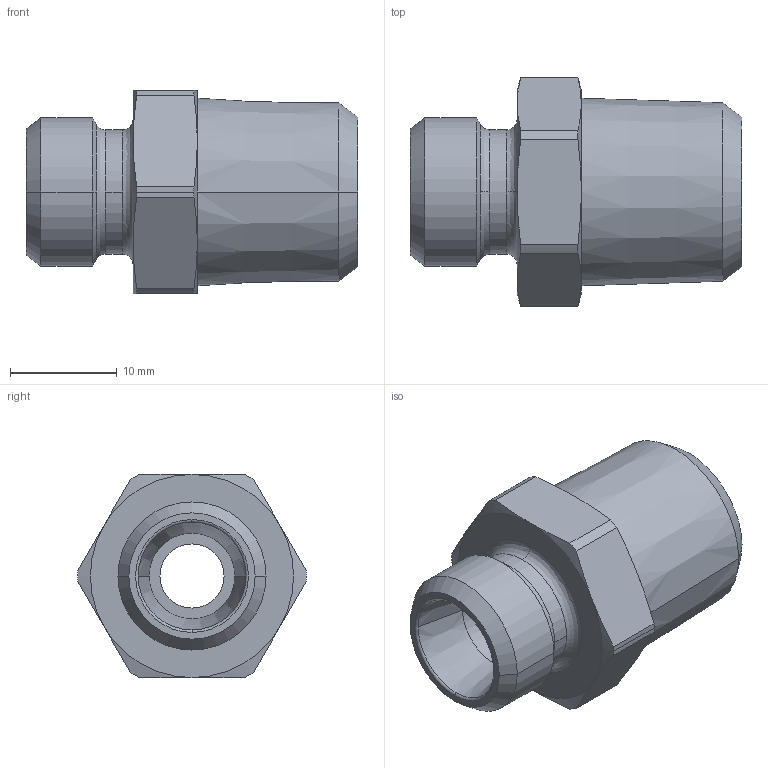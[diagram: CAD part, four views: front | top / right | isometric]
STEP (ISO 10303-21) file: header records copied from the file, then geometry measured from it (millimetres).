
FILE_DESCRIPTION((''),'2;1');
FILE_NAME('101826.stp','2007-10-30T16:13:40',(''),(''),'AutoCAD STEP 2000i','AutoCAD 2000i',', , ');
FILE_SCHEMA(('CONFIG_CONTROL_DESIGN'));
Length unit declared in the file: millimetre
Products named in the file (2): 101826.0; CHIAVE SMUSSATA#0
Assembly tree (1 placements, depth 2):
  101826.0
    CHIAVE SMUSSATA#0
Bounding box: 31 x 21.4 x 19 mm (x, y, z)
Volume: 5399.7 mm3; surface area: 2706.4 mm2
Topology: 1 solids, 1 shells, 59 faces, 143 edges, 89 vertices
Faces by surface type: cone 24, cylinder 16, plane 11, bspline 6, torus 2
Entity records: 2079 total; most frequent: CARTESIAN_POINT 605, DIRECTION 314, ORIENTED_EDGE 286, EDGE_CURVE 143, AXIS2_PLACEMENT_3D 140, VERTEX_POINT 89, CIRCLE 85, EDGE_LOOP 64
